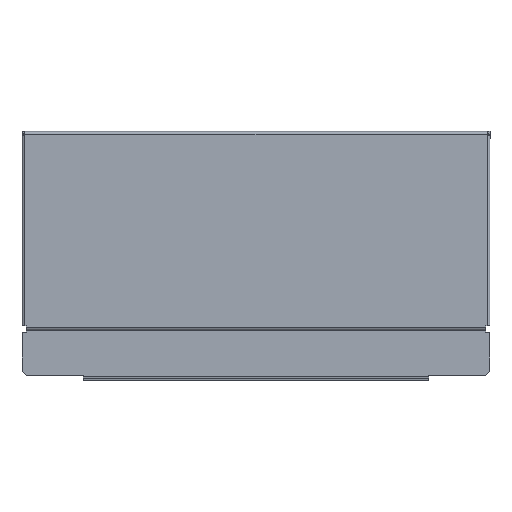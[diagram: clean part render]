
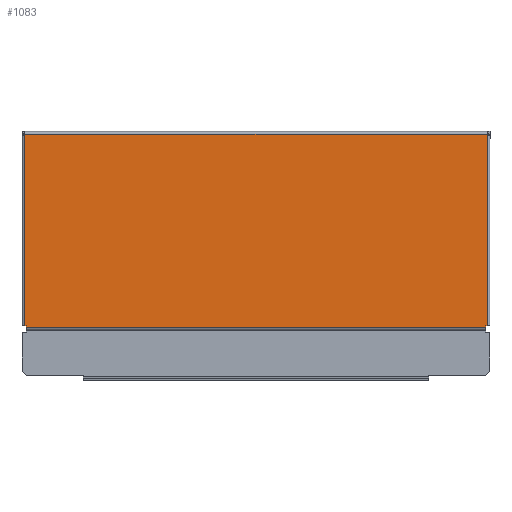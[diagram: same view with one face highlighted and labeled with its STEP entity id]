
A CAD part, front view. The second image highlights one B-rep face of the part: STEP entity #1083.
In plain terms, the highlighted planar face has unit normal (0, -1, 0).
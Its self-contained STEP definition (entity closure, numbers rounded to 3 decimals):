
#125 = VERTEX_POINT ( 'NONE', #275 ) ;
#126 = VERTEX_POINT ( 'NONE', #276 ) ;
#127 = VERTEX_POINT ( 'NONE', #277 ) ;
#129 = VERTEX_POINT ( 'NONE', #279 ) ;
#131 = VERTEX_POINT ( 'NONE', #281 ) ;
#132 = VERTEX_POINT ( 'NONE', #282 ) ;
#136 = VERTEX_POINT ( 'NONE', #287 ) ;
#139 = VERTEX_POINT ( 'NONE', #290 ) ;
#141 = VERTEX_POINT ( 'NONE', #291 ) ;
#146 = VERTEX_POINT ( 'NONE', #294 ) ;
#275 = CARTESIAN_POINT ( 'NONE',  ( 78.5, -6., 17.5 ) ) ;
#276 = CARTESIAN_POINT ( 'NONE',  ( 78.5, -6., 17. ) ) ;
#277 = CARTESIAN_POINT ( 'NONE',  ( 79., -6., 17.5 ) ) ;
#279 = CARTESIAN_POINT ( 'NONE',  ( 79., -6., 83. ) ) ;
#281 = CARTESIAN_POINT ( 'NONE',  ( -79., -6., 83. ) ) ;
#282 = CARTESIAN_POINT ( 'NONE',  ( -78.5, -6., 17.5 ) ) ;
#287 = CARTESIAN_POINT ( 'NONE',  ( -78.5, -6., 17. ) ) ;
#290 = CARTESIAN_POINT ( 'NONE',  ( 79., -6., 82.5 ) ) ;
#291 = CARTESIAN_POINT ( 'NONE',  ( -79., -6., 17.5 ) ) ;
#294 = CARTESIAN_POINT ( 'NONE',  ( -79., -6., 82.5 ) ) ;
#367 = CARTESIAN_POINT ( 'NONE',  ( 79., -6., 101.385 ) ) ;
#368 = DIRECTION ( 'NONE',  ( 0., 0., -1. ) ) ;
#376 = CARTESIAN_POINT ( 'NONE',  ( -80., -6., 17.5 ) ) ;
#377 = DIRECTION ( 'NONE',  ( 1., 0., 0. ) ) ;
#378 = CARTESIAN_POINT ( 'NONE',  ( -79., -6., 101.385 ) ) ;
#380 = DIRECTION ( 'NONE',  ( 0., 0., -1. ) ) ;
#386 = CARTESIAN_POINT ( 'NONE',  ( -80., -6., 17. ) ) ;
#387 = DIRECTION ( 'NONE',  ( 1., 0., 0. ) ) ;
#395 = CARTESIAN_POINT ( 'NONE',  ( 78.5, -6., 15.3 ) ) ;
#396 = DIRECTION ( 'NONE',  ( 0., 0., 1. ) ) ;
#661 = AXIS2_PLACEMENT_3D ( 'NONE', #2311, #2140, #2289 ) ;
#692 = EDGE_CURVE ( 'NONE', #139, #127, #1555, .T. ) ;
#695 = EDGE_CURVE ( 'NONE', #141, #132, #1560, .T. ) ;
#696 = EDGE_CURVE ( 'NONE', #131, #146, #1562, .T. ) ;
#699 = EDGE_CURVE ( 'NONE', #136, #126, #1566, .T. ) ;
#703 = EDGE_CURVE ( 'NONE', #126, #125, #1574, .T. ) ;
#970 = EDGE_LOOP ( 'NONE', ( #1502, #1501, #1500, #1499, #1498, #1496, #1495, #1494, #1493, #1492 ) ) ;
#1083 = ADVANCED_FACE ( 'NONE', ( #1780 ), #2185, .T. ) ;
#1492 = ORIENTED_EDGE ( 'NONE', *, *, #696, .T. ) ;
#1493 = ORIENTED_EDGE ( 'NONE', *, *, #2014, .F. ) ;
#1494 = ORIENTED_EDGE ( 'NONE', *, *, #2025, .F. ) ;
#1495 = ORIENTED_EDGE ( 'NONE', *, *, #692, .F. ) ;
#1496 = ORIENTED_EDGE ( 'NONE', *, *, #2029, .T. ) ;
#1498 = ORIENTED_EDGE ( 'NONE', *, *, #703, .T. ) ;
#1499 = ORIENTED_EDGE ( 'NONE', *, *, #699, .T. ) ;
#1500 = ORIENTED_EDGE ( 'NONE', *, *, #2021, .T. ) ;
#1501 = ORIENTED_EDGE ( 'NONE', *, *, #695, .T. ) ;
#1502 = ORIENTED_EDGE ( 'NONE', *, *, #2148, .T. ) ;
#1555 = LINE ( 'NONE', #367, #1556 ) ;
#1556 = VECTOR ( 'NONE', #368, 1000. ) ;
#1560 = LINE ( 'NONE', #376, #1561 ) ;
#1561 = VECTOR ( 'NONE', #377, 1000. ) ;
#1562 = LINE ( 'NONE', #378, #1563 ) ;
#1563 = VECTOR ( 'NONE', #380, 1000. ) ;
#1566 = LINE ( 'NONE', #386, #1568 ) ;
#1568 = VECTOR ( 'NONE', #387, 1000. ) ;
#1574 = LINE ( 'NONE', #395, #1575 ) ;
#1575 = VECTOR ( 'NONE', #396, 1000. ) ;
#1780 = FACE_OUTER_BOUND ( 'NONE', #970, .T. ) ;
#1806 = LINE ( 'NONE', #2169, #1807 ) ;
#1807 = VECTOR ( 'NONE', #2183, 1000. ) ;
#1820 = LINE ( 'NONE', #2303, #1821 ) ;
#1821 = VECTOR ( 'NONE', #2299, 1000. ) ;
#1828 = LINE ( 'NONE', #2139, #1829 ) ;
#1829 = VECTOR ( 'NONE', #2328, 1000. ) ;
#1836 = LINE ( 'NONE', #2216, #1837 ) ;
#1837 = VECTOR ( 'NONE', #2166, 1000. ) ;
#1887 = LINE ( 'NONE', #2037, #1889 ) ;
#1889 = VECTOR ( 'NONE', #2034, 1000. ) ;
#2014 = EDGE_CURVE ( 'NONE', #131, #129, #1806, .T. ) ;
#2021 = EDGE_CURVE ( 'NONE', #132, #136, #1820, .T. ) ;
#2025 = EDGE_CURVE ( 'NONE', #129, #139, #1828, .T. ) ;
#2029 = EDGE_CURVE ( 'NONE', #125, #127, #1836, .T. ) ;
#2034 = DIRECTION ( 'NONE',  ( 0., 0., -1. ) ) ;
#2037 = CARTESIAN_POINT ( 'NONE',  ( -79., -6., 101.385 ) ) ;
#2139 = CARTESIAN_POINT ( 'NONE',  ( 79., -6., 101.385 ) ) ;
#2140 = DIRECTION ( 'NONE',  ( 0., -1., 0. ) ) ;
#2148 = EDGE_CURVE ( 'NONE', #146, #141, #1887, .T. ) ;
#2166 = DIRECTION ( 'NONE',  ( 1., 0., 0. ) ) ;
#2169 = CARTESIAN_POINT ( 'NONE',  ( -80., -6., 83. ) ) ;
#2183 = DIRECTION ( 'NONE',  ( 1., 0., 0. ) ) ;
#2185 = PLANE ( 'NONE',  #661 ) ;
#2216 = CARTESIAN_POINT ( 'NONE',  ( 78.5, -6., 17.5 ) ) ;
#2289 = DIRECTION ( 'NONE',  ( 1., 0., 0. ) ) ;
#2299 = DIRECTION ( 'NONE',  ( 0., 0., -1. ) ) ;
#2303 = CARTESIAN_POINT ( 'NONE',  ( -78.5, -6., 17.5 ) ) ;
#2311 = CARTESIAN_POINT ( 'NONE',  ( -80., -6., 17. ) ) ;
#2328 = DIRECTION ( 'NONE',  ( 0., 0., -1. ) ) ;
